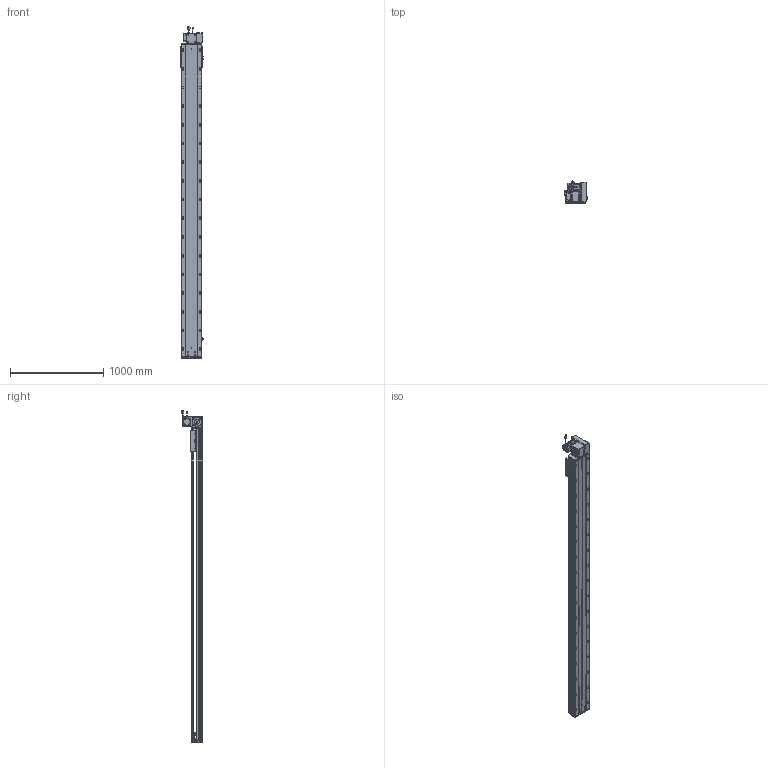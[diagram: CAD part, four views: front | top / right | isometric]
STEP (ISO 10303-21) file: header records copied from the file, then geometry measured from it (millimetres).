
FILE_DESCRIPTION (( 'STEP AP203' ), '1' );
FILE_NAME ('RY220-T-300-UR.SLDASM_3000.step', '2022-07-25T08:46:09', ( '' ), ( '' ), 'SwSTEP 2.0', 'SolidWorks 2016', '' );
FILE_SCHEMA (( 'CONFIG_CONTROL_DESIGN' ));
Length unit declared in the file: millimetre
Products named in the file (14): RY220-俋离672覜茼んえ; RY220-T菁釱-300_3000; RY220翋肮祭謫釱; RY220-T-湍謫欶(鍼踢); 怢湛750W_ECMA-CX0807ES; 滅袉蝶18-15; RY220-T-300-奻裔啣_3000; RY220-T-蛌殏萇儂假蚾啣(750W); RY220翋肮祭謫裔啣; RY220-T-300-UR.SLDASM_3000; 覜茼ん672; RY220圉猾敕々湍臏賑輸; 110A-T-肮祭謫釱傷裔; RY220-同步轮副支撑座6304×2
Assembly tree (18 placements, depth 2):
  RY220-T-300-UR.SLDASM_3000
    RY220-T菁釱-300_3000
    RY220翋肮祭謫釱
    覜茼ん672  x3
    RY220圉猾敕々湍臏賑輸
    RY220-T-300-奻裔啣_3000
    RY220-俋离672覜茼んえ
    滅袉蝶18-15  x3
    RY220翋肮祭謫裔啣  x2
    110A-T-肮祭謫釱傷裔
    怢湛750W_ECMA-CX0807ES
    RY220-T-湍謫欶(鍼踢)
    RY220-T-蛌殏萇儂假蚾啣(750W)
    RY220-同步轮副支撑座6304×2
Bounding box: 238.7 x 231.74 x 3553.27 mm (x, y, z)
Volume: 25205247.5 mm3; surface area: 7798765.6 mm2
Topology: 19 solids, 19 shells, 3028 faces, 8375 edges, 5240 vertices
Faces by surface type: cylinder 1496, plane 1069, cone 381, bspline 56, sphere 16, torus 10
Entity records: 100931 total; most frequent: CARTESIAN_POINT 28435, ORIENTED_EDGE 14970, DIRECTION 14476, EDGE_CURVE 7485, AXIS2_PLACEMENT_3D 5230, VERTEX_POINT 4864, VECTOR 4016, LINE 4016
